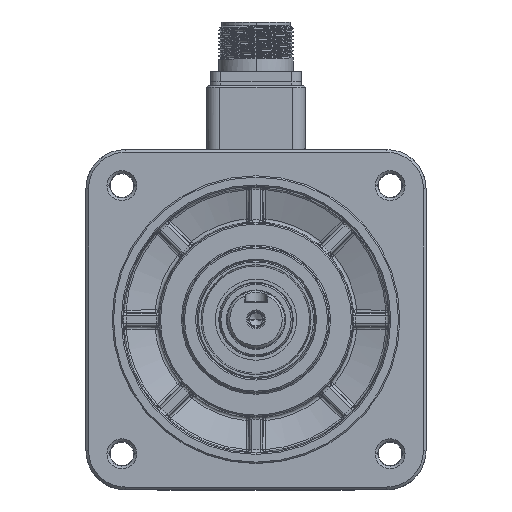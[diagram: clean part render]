
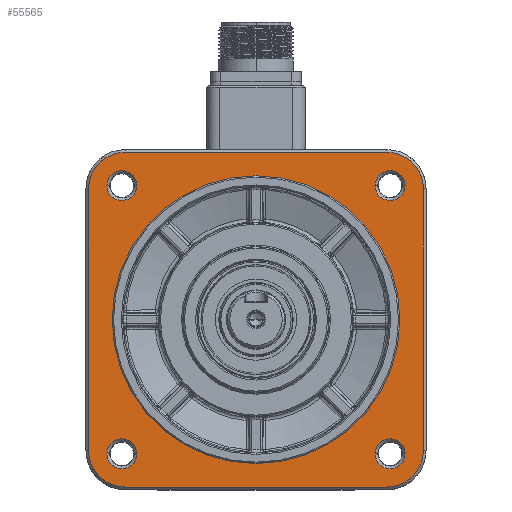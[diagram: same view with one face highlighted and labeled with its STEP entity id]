
A CAD part, top view. The second image highlights one B-rep face of the part: STEP entity #55565.
In plain terms, the highlighted planar face has unit normal (0, 0, 1).
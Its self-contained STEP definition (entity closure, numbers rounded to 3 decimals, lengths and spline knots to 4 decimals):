
#15461=CARTESIAN_POINT('',(-1.9685,1.9685,
2.4213));
#15462=DIRECTION('',(0.,0.,1.));
#15463=DIRECTION('',(0.,1.,0.));
#15464=AXIS2_PLACEMENT_3D('',#15461,#15462,#15463);
#15466=DIRECTION('',(-1.,0.,0.));
#15467=VECTOR('',#15466,3.937);
#15468=CARTESIAN_POINT('',(1.9685,2.519,2.4213));
#15469=LINE('',#15468,#15467);
#15470=CARTESIAN_POINT('',(1.9685,1.9685,2.4213));
#15471=DIRECTION('',(0.,0.,1.));
#15472=DIRECTION('',(1.,0.,0.));
#15473=AXIS2_PLACEMENT_3D('',#15470,#15471,#15472);
#15475=DIRECTION('',(0.,1.,0.));
#15476=VECTOR('',#15475,3.937);
#15477=CARTESIAN_POINT('',(2.519,-1.9685,
2.4213));
#15478=LINE('',#15477,#15476);
#15479=CARTESIAN_POINT('',(1.9685,-1.9685,
2.4213));
#15480=DIRECTION('',(0.,0.,1.));
#15481=DIRECTION('',(0.,-1.,0.));
#15482=AXIS2_PLACEMENT_3D('',#15479,#15480,#15481);
#15484=DIRECTION('',(1.,0.,0.));
#15485=VECTOR('',#15484,3.937);
#15486=CARTESIAN_POINT('',(-1.9685,-2.519,
2.4213));
#15487=LINE('',#15486,#15485);
#15488=CARTESIAN_POINT('',(-1.9685,-1.9685,
2.4213));
#15489=DIRECTION('',(0.,0.,1.));
#15490=DIRECTION('',(-1.,0.,0.));
#15491=AXIS2_PLACEMENT_3D('',#15488,#15489,#15490);
#15493=DIRECTION('',(0.,-1.,0.));
#15494=VECTOR('',#15493,3.937);
#15495=CARTESIAN_POINT('',(-2.519,1.9685,
2.4213));
#15496=LINE('',#15495,#15494);
#15497=CARTESIAN_POINT('',(-2.0183,2.0183,
2.4213));
#15498=DIRECTION('',(0.,0.,-1.));
#15499=DIRECTION('',(1.,0.,0.));
#15500=AXIS2_PLACEMENT_3D('',#15497,#15498,#15499);
#15502=CARTESIAN_POINT('',(-2.0183,2.0183,
2.4213));
#15503=DIRECTION('',(0.,0.,-1.));
#15504=DIRECTION('',(-1.,0.,0.));
#15505=AXIS2_PLACEMENT_3D('',#15502,#15503,#15504);
#15507=CARTESIAN_POINT('',(2.0183,2.0183,2.4213));
#15508=DIRECTION('',(0.,0.,-1.));
#15509=DIRECTION('',(-1.,0.,0.));
#15510=AXIS2_PLACEMENT_3D('',#15507,#15508,#15509);
#15512=CARTESIAN_POINT('',(2.0183,2.0183,2.4213));
#15513=DIRECTION('',(0.,0.,-1.));
#15514=DIRECTION('',(1.,0.,0.));
#15515=AXIS2_PLACEMENT_3D('',#15512,#15513,#15514);
#15517=CARTESIAN_POINT('',(2.0183,-2.0183,
2.4213));
#15518=DIRECTION('',(0.,0.,-1.));
#15519=DIRECTION('',(1.,0.,0.));
#15520=AXIS2_PLACEMENT_3D('',#15517,#15518,#15519);
#15522=CARTESIAN_POINT('',(2.0183,-2.0183,
2.4213));
#15523=DIRECTION('',(0.,0.,-1.));
#15524=DIRECTION('',(-1.,0.,0.));
#15525=AXIS2_PLACEMENT_3D('',#15522,#15523,#15524);
#15527=CARTESIAN_POINT('',(-2.0183,-2.0183,
2.4213));
#15528=DIRECTION('',(0.,0.,-1.));
#15529=DIRECTION('',(1.,0.,0.));
#15530=AXIS2_PLACEMENT_3D('',#15527,#15528,#15529);
#15532=CARTESIAN_POINT('',(-2.0183,-2.0183,
2.4213));
#15533=DIRECTION('',(0.,0.,-1.));
#15534=DIRECTION('',(-1.,0.,0.));
#15535=AXIS2_PLACEMENT_3D('',#15532,#15533,#15534);
#16180=CARTESIAN_POINT('',(0.,0.,2.4213));
#16181=DIRECTION('',(0.,0.,-1.));
#16182=DIRECTION('',(0.,1.,0.));
#16183=AXIS2_PLACEMENT_3D('',#16180,#16181,#16182);
#16222=CARTESIAN_POINT('',(0.,0.,2.4213));
#16223=DIRECTION('',(0.,0.,1.));
#16224=DIRECTION('',(0.,1.,0.));
#16225=AXIS2_PLACEMENT_3D('',#16222,#16223,#16224);
#25801=CARTESIAN_POINT('',(0.,2.1654,2.4213));
#25802=CARTESIAN_POINT('',(0.,-2.1654,2.4213));
#25803=VERTEX_POINT('',#25801);
#25804=VERTEX_POINT('',#25802);
#26105=CARTESIAN_POINT('',(-1.7932,2.0183,
2.4213));
#26106=CARTESIAN_POINT('',(-2.2434,2.0183,
2.4213));
#26107=VERTEX_POINT('',#26105);
#26108=VERTEX_POINT('',#26106);
#26113=CARTESIAN_POINT('',(-1.9685,2.519,
2.4213));
#26114=CARTESIAN_POINT('',(-2.519,1.9685,
2.4213));
#26115=VERTEX_POINT('',#26113);
#26116=VERTEX_POINT('',#26114);
#26121=CARTESIAN_POINT('',(-2.519,-1.9685,
2.4213));
#26122=VERTEX_POINT('',#26121);
#26125=CARTESIAN_POINT('',(-1.9685,-2.519,
2.4213));
#26126=VERTEX_POINT('',#26125);
#26129=CARTESIAN_POINT('',(1.9685,-2.519,
2.4213));
#26130=VERTEX_POINT('',#26129);
#26133=CARTESIAN_POINT('',(2.519,-1.9685,
2.4213));
#26134=VERTEX_POINT('',#26133);
#26137=CARTESIAN_POINT('',(2.519,1.9685,2.4213));
#26138=VERTEX_POINT('',#26137);
#26141=CARTESIAN_POINT('',(1.9685,2.519,2.4213));
#26142=VERTEX_POINT('',#26141);
#26145=CARTESIAN_POINT('',(1.7932,2.0183,2.4213));
#26146=CARTESIAN_POINT('',(2.2434,2.0183,2.4213));
#26147=VERTEX_POINT('',#26145);
#26148=VERTEX_POINT('',#26146);
#26153=CARTESIAN_POINT('',(2.2434,-2.0183,
2.4213));
#26154=CARTESIAN_POINT('',(1.7932,-2.0183,
2.4213));
#26155=VERTEX_POINT('',#26153);
#26156=VERTEX_POINT('',#26154);
#26161=CARTESIAN_POINT('',(-1.7932,-2.0183,
2.4213));
#26162=CARTESIAN_POINT('',(-2.2434,-2.0183,
2.4213));
#26163=VERTEX_POINT('',#26161);
#26164=VERTEX_POINT('',#26162);
#55513=CARTESIAN_POINT('',(0.,0.,2.4213));
#55514=DIRECTION('',(0.,0.,-1.));
#55515=DIRECTION('',(0.,-1.,0.));
#55516=AXIS2_PLACEMENT_3D('',#55513,#55514,#55515);
#55517=PLANE('',#55516);
#55519=ORIENTED_EDGE('',*,*,#55518,.F.);
#55521=ORIENTED_EDGE('',*,*,#55520,.F.);
#55523=ORIENTED_EDGE('',*,*,#55522,.F.);
#55525=ORIENTED_EDGE('',*,*,#55524,.F.);
#55527=ORIENTED_EDGE('',*,*,#55526,.F.);
#55529=ORIENTED_EDGE('',*,*,#55528,.F.);
#55531=ORIENTED_EDGE('',*,*,#55530,.F.);
#55533=ORIENTED_EDGE('',*,*,#55532,.F.);
#55534=EDGE_LOOP('',(#55519,#55521,#55523,#55525,#55527,#55529,#55531,#55533));
#55535=FACE_OUTER_BOUND('',#55534,.F.);
#55537=ORIENTED_EDGE('',*,*,#55536,.F.);
#55539=ORIENTED_EDGE('',*,*,#55538,.T.);
#55540=EDGE_LOOP('',(#55537,#55539));
#55541=FACE_BOUND('',#55540,.F.);
#55543=ORIENTED_EDGE('',*,*,#55542,.F.);
#55545=ORIENTED_EDGE('',*,*,#55544,.F.);
#55546=EDGE_LOOP('',(#55543,#55545));
#55547=FACE_BOUND('',#55546,.F.);
#55549=ORIENTED_EDGE('',*,*,#55548,.F.);
#55550=ORIENTED_EDGE('',*,*,#55503,.F.);
#55551=EDGE_LOOP('',(#55549,#55550));
#55552=FACE_BOUND('',#55551,.F.);
#55554=ORIENTED_EDGE('',*,*,#55553,.F.);
#55556=ORIENTED_EDGE('',*,*,#55555,.F.);
#55557=EDGE_LOOP('',(#55554,#55556));
#55558=FACE_BOUND('',#55557,.F.);
#55560=ORIENTED_EDGE('',*,*,#55559,.F.);
#55562=ORIENTED_EDGE('',*,*,#55561,.F.);
#55563=EDGE_LOOP('',(#55560,#55562));
#55564=FACE_BOUND('',#55563,.F.);
#55565=ADVANCED_FACE('',(#55535,#55541,#55547,#55552,#55558,#55564),#55517,.F.);
#15465=CIRCLE('',#15464,0.5505);
#15474=CIRCLE('',#15473,0.5505);
#15483=CIRCLE('',#15482,0.5505);
#15492=CIRCLE('',#15491,0.5505);
#15501=CIRCLE('',#15500,0.2251);
#15506=CIRCLE('',#15505,0.2251);
#15511=CIRCLE('',#15510,0.2251);
#15516=CIRCLE('',#15515,0.2251);
#15521=CIRCLE('',#15520,0.2251);
#15526=CIRCLE('',#15525,0.2251);
#15531=CIRCLE('',#15530,0.2251);
#15536=CIRCLE('',#15535,0.2251);
#16184=CIRCLE('',#16183,2.1654);
#16226=CIRCLE('',#16225,2.1654);
#55503=EDGE_CURVE('',#26148,#26147,#15516,.T.);
#55518=EDGE_CURVE('',#26115,#26116,#15465,.T.);
#55520=EDGE_CURVE('',#26142,#26115,#15469,.T.);
#55522=EDGE_CURVE('',#26138,#26142,#15474,.T.);
#55524=EDGE_CURVE('',#26134,#26138,#15478,.T.);
#55526=EDGE_CURVE('',#26130,#26134,#15483,.T.);
#55528=EDGE_CURVE('',#26126,#26130,#15487,.T.);
#55530=EDGE_CURVE('',#26122,#26126,#15492,.T.);
#55532=EDGE_CURVE('',#26116,#26122,#15496,.T.);
#55536=EDGE_CURVE('',#25803,#25804,#16184,.T.);
#55538=EDGE_CURVE('',#25803,#25804,#16226,.T.);
#55542=EDGE_CURVE('',#26107,#26108,#15501,.T.);
#55544=EDGE_CURVE('',#26108,#26107,#15506,.T.);
#55548=EDGE_CURVE('',#26147,#26148,#15511,.T.);
#55553=EDGE_CURVE('',#26155,#26156,#15521,.T.);
#55555=EDGE_CURVE('',#26156,#26155,#15526,.T.);
#55559=EDGE_CURVE('',#26163,#26164,#15531,.T.);
#55561=EDGE_CURVE('',#26164,#26163,#15536,.T.);
